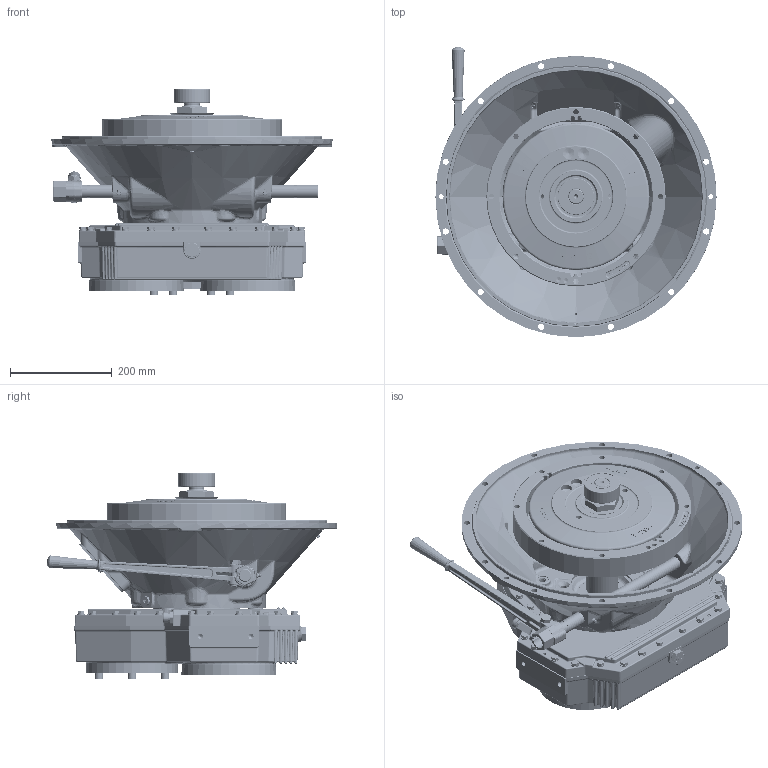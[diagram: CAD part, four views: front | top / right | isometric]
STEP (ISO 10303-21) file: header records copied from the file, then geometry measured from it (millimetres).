
FILE_DESCRIPTION (( 'STEP AP214' ), '1' );
FILE_NAME ('1029021D.STEP', '2023-05-12T14:58:59', ( '' ), ( '' ), 'SwSTEP 2.0', 'SolidWorks 2019', '' );
FILE_SCHEMA (( 'AUTOMOTIVE_DESIGN' ));
Length unit declared in the file: millimetre
Products named in the file (8): ITam320-002_rev00-installation; IT1041031_rev00-installation; IT1041093-installation; IT2021180_rev06-installation; ITam216-013-installation; 1029021D; PX1031738C; ITB00220000-installation
Assembly tree (10 placements, depth 2):
  1029021D
    ITB00220000-installation
    IT2021180_rev06-installation  x3
    ITam320-002_rev00-installation
    IT1041031_rev00-installation  x2
    IT1041093-installation
    PX1031738C
    ITam216-013-installation
Bounding box: 552.5 x 570.7 x 404.6 mm (x, y, z)
Volume: 2134164.6 mm3; surface area: 2753089.3 mm2
Topology: 36 solids, 176 shells, 10035 faces, 24823 edges, 15398 vertices
Faces by surface type: cylinder 2993, plane 2928, bspline 2459, cone 719, torus 680, sphere 256
Entity records: 474138 total; most frequent: CARTESIAN_POINT 178580, ORIENTED_EDGE 43339, DIRECTION 37354, EDGE_CURVE 21678, AXIS2_PLACEMENT_3D 14523, VERTEX_POINT 13479, EDGE_LOOP 9679, UNCERTAINTY_MEASURE_WITH_UNIT 9092
